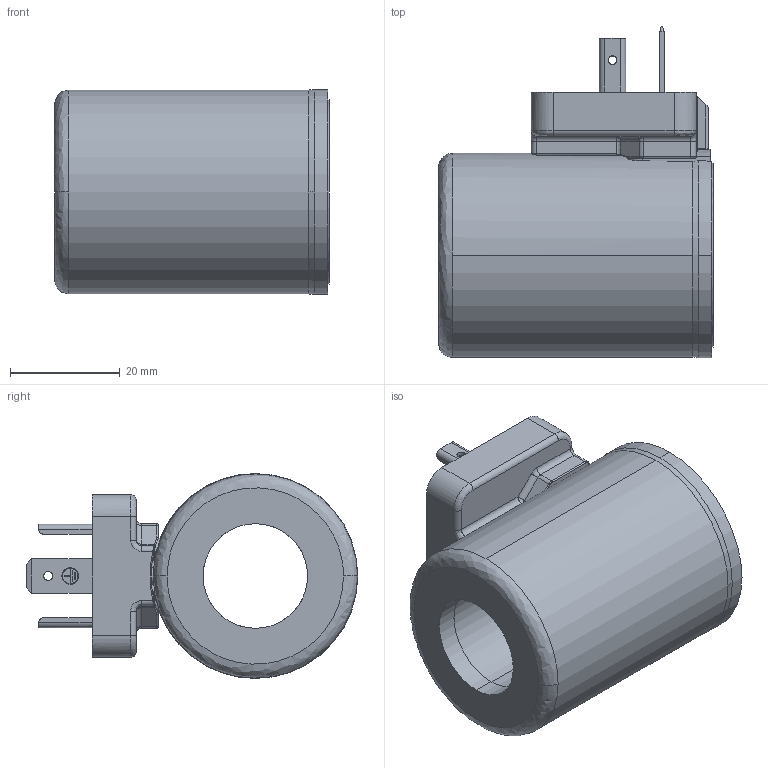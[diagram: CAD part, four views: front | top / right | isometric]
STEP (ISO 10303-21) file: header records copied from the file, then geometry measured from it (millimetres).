
FILE_DESCRIPTION (( 'STEP AP214' ), '1' );
FILE_NAME ('WDS37_19x50.STEP', '2017-06-15T07:57:54', ( '' ), ( '' ), 'SwSTEP 2.0', 'SolidWorks 2016', '' );
FILE_SCHEMA (( 'AUTOMOTIVE_DESIGN' ));
Length unit declared in the file: millimetre
Products named in the file (1): WDS37_19x50
Bounding box: 50 x 60.34 x 37.29 mm (x, y, z)
Volume: 47169.6 mm3; surface area: 17735.6 mm2
Topology: 1 solids, 1 shells, 773 faces, 2183 edges, 1459 vertices
Faces by surface type: plane 419, cylinder 281, bspline 59, cone 14
Entity records: 32119 total; most frequent: CARTESIAN_POINT 12476, ORIENTED_EDGE 4360, DIRECTION 2842, EDGE_CURVE 2180, VERTEX_POINT 1459, VECTOR 1078, LINE 1078, B_SPLINE_CURVE_WITH_KNOTS 910
